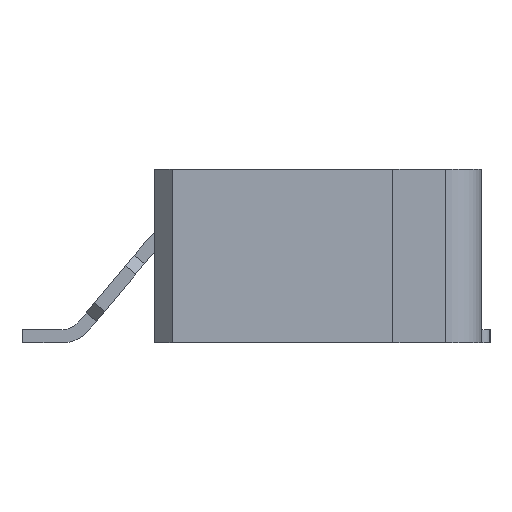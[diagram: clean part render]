
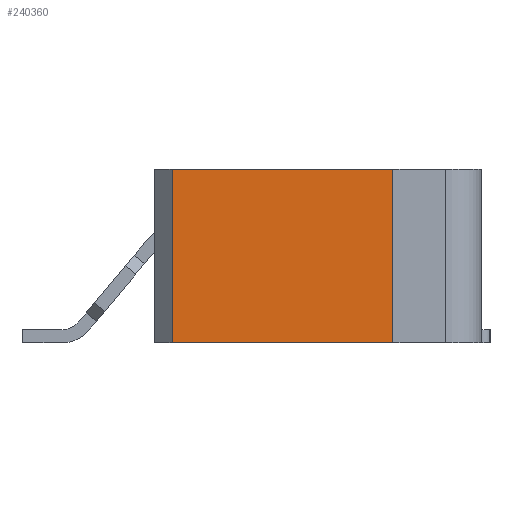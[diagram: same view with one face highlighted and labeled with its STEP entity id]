
A CAD part, left-side view. The second image highlights one B-rep face of the part: STEP entity #240360.
In plain terms, the highlighted planar face has unit normal (-1, 0, 0) as drawn and (1, 0, 0) by its records, which use the part's own axes.
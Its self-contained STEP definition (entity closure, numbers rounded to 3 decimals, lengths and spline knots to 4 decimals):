
#5680=CARTESIAN_POINT('',(4.5832,-69.2963,
0.));
#5690=VERTEX_POINT('',#5680);
#5720=CARTESIAN_POINT('',(4.5832,-66.7963,
0.));
#5730=DIRECTION('',(0.,-1.,0.));
#5740=VECTOR('',#5730,1.);
#5750=LINE('',#5720,#5740);
#5760=CARTESIAN_POINT('',(4.5832,-66.7963,
0.));
#5770=VERTEX_POINT('',#5760);
#5780=EDGE_CURVE('',#5770,#5690,#5750,.T.);
#26300=CARTESIAN_POINT('',(4.5832,-66.7963,1.97));
#26310=VERTEX_POINT('',#26300);
#26340=CARTESIAN_POINT('',(4.5832,-69.2963,1.97));
#26350=DIRECTION('',(0.,1.,0.));
#26360=VECTOR('',#26350,1.);
#26370=LINE('',#26340,#26360);
#26380=CARTESIAN_POINT('',(4.5832,-69.2963,1.97));
#26390=VERTEX_POINT('',#26380);
#26400=EDGE_CURVE('',#26390,#26310,#26370,.T.);
#240110=CARTESIAN_POINT('',(4.5832,-66.7963,
0.));
#240120=DIRECTION('',(0.,0.,1.));
#240130=VECTOR('',#240120,1.);
#240140=LINE('',#240110,#240130);
#240150=EDGE_CURVE('',#5770,#26310,#240140,.T.);
#240200=CARTESIAN_POINT('',(4.5832,-69.2963,1.97));
#240210=DIRECTION('',(-1.,0.,0.));
#240220=DIRECTION('',(0.,1.,0.));
#240230=AXIS2_PLACEMENT_3D('',#240200,#240210,#240220);
#240240=PLANE('',#240230);
#240250=CARTESIAN_POINT('',(4.5832,-69.2963,
0.));
#240260=DIRECTION('',(0.,0.,1.));
#240270=VECTOR('',#240260,1.);
#240280=LINE('',#240250,#240270);
#240290=EDGE_CURVE('',#5690,#26390,#240280,.T.);
#240300=ORIENTED_EDGE('',*,*,#240290,.F.);
#240310=ORIENTED_EDGE('',*,*,#26400,.F.);
#240320=ORIENTED_EDGE('',*,*,#240150,.T.);
#240330=ORIENTED_EDGE('',*,*,#5780,.F.);
#240340=EDGE_LOOP('',(#240330,#240320,#240310,#240300));
#240350=FACE_OUTER_BOUND('',#240340,.T.);
#240360=ADVANCED_FACE('',(#240350),#240240,.F.);
